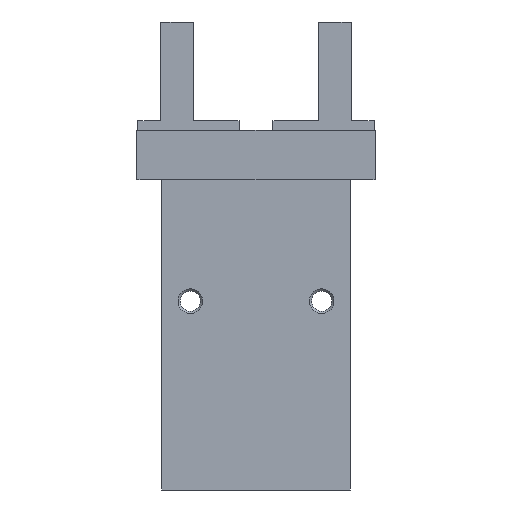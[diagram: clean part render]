
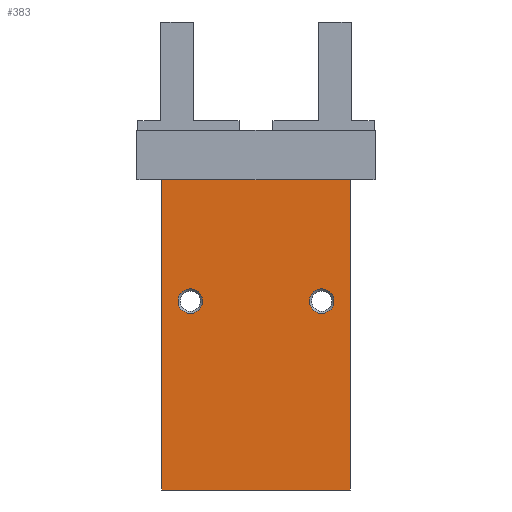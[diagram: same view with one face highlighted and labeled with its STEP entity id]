
A CAD part, front view. The second image highlights one B-rep face of the part: STEP entity #383.
In plain terms, the highlighted planar face has unit normal (0, -1, 0).
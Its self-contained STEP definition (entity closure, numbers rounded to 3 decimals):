
#383 = ADVANCED_FACE( '', ( #794, #795, #796 ), #797, .F. );
#794 = FACE_BOUND( '', #1208, .T. );
#795 = FACE_BOUND( '', #1209, .T. );
#796 = FACE_OUTER_BOUND( '', #1210, .T. );
#797 = PLANE( '', #1211 );
#1208 = EDGE_LOOP( '', ( #2078 ) );
#1209 = EDGE_LOOP( '', ( #2079 ) );
#1210 = EDGE_LOOP( '', ( #2080, #2081, #2082, #2083 ) );
#1211 = AXIS2_PLACEMENT_3D( '', #2084, #2085, #2086 );
#2078 = ORIENTED_EDGE( '', *, *, #2426, .T. );
#2079 = ORIENTED_EDGE( '', *, *, #2581, .T. );
#2080 = ORIENTED_EDGE( '', *, *, #2576, .T. );
#2081 = ORIENTED_EDGE( '', *, *, #2466, .F. );
#2082 = ORIENTED_EDGE( '', *, *, #2395, .F. );
#2083 = ORIENTED_EDGE( '', *, *, #2420, .T. );
#2084 = CARTESIAN_POINT( '', ( -11.5, -8.2, 37.8 ) );
#2085 = DIRECTION( '', ( 0., 1., 0. ) );
#2086 = DIRECTION( '', ( 0., 0., 1. ) );
#2395 = EDGE_CURVE( '', #2866, #2861, #2868, .T. );
#2420 = EDGE_CURVE( '', #2866, #2906, #2908, .T. );
#2426 = EDGE_CURVE( '', #2916, #2916, #2917, .T. );
#2466 = EDGE_CURVE( '', #2861, #2978, #2979, .T. );
#2576 = EDGE_CURVE( '', #2906, #2978, #3126, .T. );
#2581 = EDGE_CURVE( '', #3132, #3132, #3133, .T. );
#2861 = VERTEX_POINT( '', #3503 );
#2866 = VERTEX_POINT( '', #3510 );
#2868 = LINE( '', #3513, #3514 );
#2906 = VERTEX_POINT( '', #3565 );
#2908 = LINE( '', #3568, #3569 );
#2916 = VERTEX_POINT( '', #3578 );
#2917 = CIRCLE( '', #3579, 1.5 );
#2978 = VERTEX_POINT( '', #3658 );
#2979 = LINE( '', #3659, #3660 );
#3126 = LINE( '', #3869, #3870 );
#3132 = VERTEX_POINT( '', #3879 );
#3133 = CIRCLE( '', #3880, 1.5 );
#3503 = CARTESIAN_POINT( '', ( 11.5, -8.2, 37.8 ) );
#3510 = CARTESIAN_POINT( '', ( -11.5, -8.2, 37.8 ) );
#3513 = CARTESIAN_POINT( '', ( -11.5, -8.2, 37.8 ) );
#3514 = VECTOR( '', #4089, 1000. );
#3565 = CARTESIAN_POINT( '', ( -11.5, -8.2, 0. ) );
#3568 = CARTESIAN_POINT( '', ( -11.5, -8.2, 37.8 ) );
#3569 = VECTOR( '', #4116, 1000. );
#3578 = CARTESIAN_POINT( '', ( -9.5, -8.2, 23. ) );
#3579 = AXIS2_PLACEMENT_3D( '', #4124, #4125, #4126 );
#3658 = CARTESIAN_POINT( '', ( 11.5, -8.2, 0. ) );
#3659 = CARTESIAN_POINT( '', ( 11.5, -8.2, 37.8 ) );
#3660 = VECTOR( '', #4172, 1000. );
#3869 = CARTESIAN_POINT( '', ( -11.5, -8.2, 0. ) );
#3870 = VECTOR( '', #4271, 1000. );
#3879 = CARTESIAN_POINT( '', ( 6.5, -8.2, 23. ) );
#3880 = AXIS2_PLACEMENT_3D( '', #4275, #4276, #4277 );
#4089 = DIRECTION( '', ( 1., 0., 0. ) );
#4116 = DIRECTION( '', ( 0., 0., -1. ) );
#4124 = CARTESIAN_POINT( '', ( -8., -8.2, 23. ) );
#4125 = DIRECTION( '', ( 0., 1., 0. ) );
#4126 = DIRECTION( '', ( -1., 0., 0. ) );
#4172 = DIRECTION( '', ( 0., 0., -1. ) );
#4271 = DIRECTION( '', ( 1., 0., 0. ) );
#4275 = CARTESIAN_POINT( '', ( 8., -8.2, 23. ) );
#4276 = DIRECTION( '', ( 0., 1., 0. ) );
#4277 = DIRECTION( '', ( -1., 0., 0. ) );
